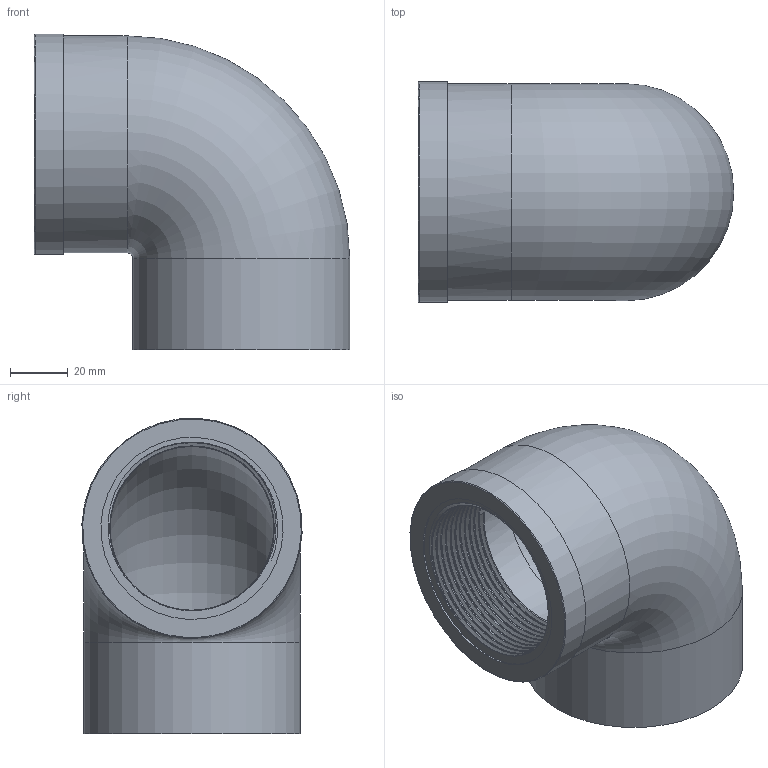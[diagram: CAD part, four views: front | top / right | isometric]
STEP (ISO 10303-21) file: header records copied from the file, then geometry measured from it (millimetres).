
FILE_DESCRIPTION(/* description */ (''),/* implementation_level */ '2;1');
FILE_NAME(/* name */ 'C:\Users\POLYPIPE\Desktop\DATASET INVENTOR\LIBRERIA EFFAST\RACCORDI 3DxWEB\RGR\3D_RGRGOR\3D_RGRGOR063G.stp',/* time_stamp */ '2018-01-19T17:47:10+01:00',/* author */ ('POLYPIPE'),/* organization */ (''),/* preprocessor_version */ 'ST-DEVELOPER v16.1',/* originating_system */ 'Autodesk Inventor 2016',/* authorisation */ '');
FILE_SCHEMA (('CONFIG_CONTROL_DESIGN'));
Length unit declared in the file: centimetre
Products named in the file (1): 3D_RGRGOR063G
Bounding box: 109.1 x 76.11 x 109.06 mm (x, y, z)
Volume: 195329.1 mm3; surface area: 60912.4 mm2
Topology: 1 solids, 1 shells, 21 faces, 42 edges, 27 vertices
Faces by surface type: plane 7, cylinder 6, bspline 5, torus 3
Full cylindrical faces by diameter (mm): 56.656 x1, 63 x2, 75 x2, 76.2 x1
Entity records: 4626 total; most frequent: CARTESIAN_POINT 4192, DIRECTION 71, ORIENTED_EDGE 62, EDGE_LOOP 36, AXIS2_PLACEMENT_3D 34, EDGE_CURVE 31, VERTEX_POINT 25, STYLED_ITEM 22
